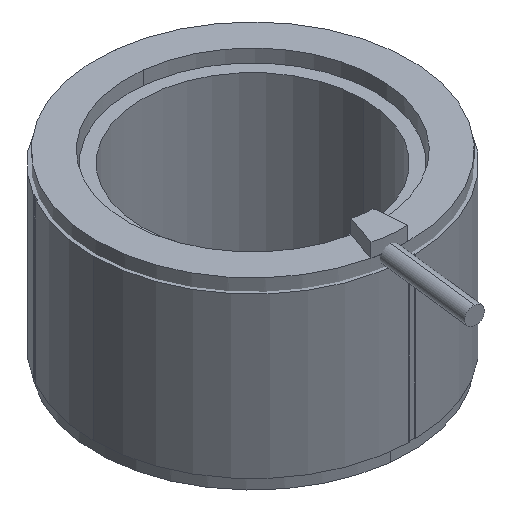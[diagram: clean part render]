
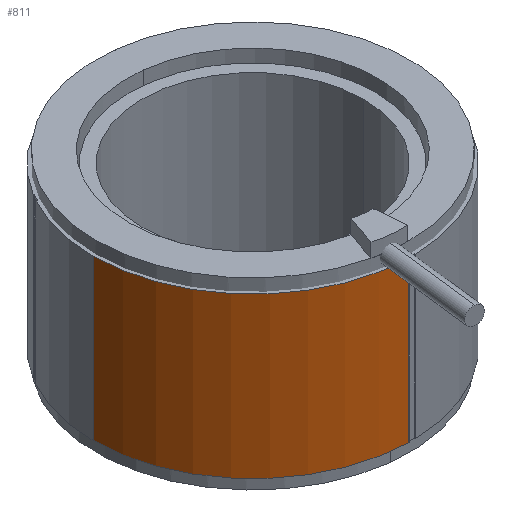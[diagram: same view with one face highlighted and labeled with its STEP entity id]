
A CAD part, isometric view. The second image highlights one B-rep face of the part: STEP entity #811.
In plain terms, the highlighted cylindrical face has radius 80 mm (diameter 160 mm), a partial arc.
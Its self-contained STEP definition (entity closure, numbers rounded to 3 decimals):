
#70 = CARTESIAN_POINT ( 'NONE',  ( 65.094, 55.582, 430.615 ) ) ;
#86 = EDGE_LOOP ( 'NONE', ( #2396, #334, #1916, #3915 ) ) ;
#145 = CIRCLE ( 'NONE', #4596, 80. ) ;
#189 = CARTESIAN_POINT ( 'NONE',  ( 66.619, 135.567, 230.615 ) ) ;
#313 = CARTESIAN_POINT ( 'NONE',  ( 65.094, 55.582, 230.615 ) ) ;
#334 = ORIENTED_EDGE ( 'NONE', *, *, #3959, .F. ) ;
#485 = CARTESIAN_POINT ( 'NONE',  ( -13.381, 135.567, 150.615 ) ) ;
#811 = ADVANCED_FACE ( 'NONE', ( #961 ), #2172, .T. ) ;
#961 = FACE_OUTER_BOUND ( 'NONE', #86, .T. ) ;
#1027 = LINE ( 'NONE', #2564, #1053 ) ;
#1053 = VECTOR ( 'NONE', #4913, 1000. ) ;
#1198 = CARTESIAN_POINT ( 'NONE',  ( 65.094, 55.582, 150.615 ) ) ;
#1330 = AXIS2_PLACEMENT_3D ( 'NONE', #189, #2464, #3352 ) ;
#1394 = VERTEX_POINT ( 'NONE', #485 ) ;
#1427 = VECTOR ( 'NONE', #3235, 1000. ) ;
#1579 = DIRECTION ( 'NONE',  ( 0., 0., -1. ) ) ;
#1916 = ORIENTED_EDGE ( 'NONE', *, *, #2223, .F. ) ;
#2032 = EDGE_CURVE ( 'NONE', #2917, #2723, #4462, .T. ) ;
#2172 = CYLINDRICAL_SURFACE ( 'NONE', #4911, 80. ) ;
#2223 = EDGE_CURVE ( 'NONE', #2917, #4916, #3996, .T. ) ;
#2224 = DIRECTION ( 'NONE',  ( -1., 0., 0. ) ) ;
#2322 = CARTESIAN_POINT ( 'NONE',  ( 66.619, 135.567, 150.615 ) ) ;
#2396 = ORIENTED_EDGE ( 'NONE', *, *, #5034, .F. ) ;
#2464 = DIRECTION ( 'NONE',  ( 0., 0., -1. ) ) ;
#2564 = CARTESIAN_POINT ( 'NONE',  ( -13.381, 135.567, 230.615 ) ) ;
#2723 = VERTEX_POINT ( 'NONE', #3465 ) ;
#2917 = VERTEX_POINT ( 'NONE', #313 ) ;
#3235 = DIRECTION ( 'NONE',  ( 0., 0., -1. ) ) ;
#3352 = DIRECTION ( 'NONE',  ( 1., 0., 0. ) ) ;
#3465 = CARTESIAN_POINT ( 'NONE',  ( -13.381, 135.567, 230.615 ) ) ;
#3759 = DIRECTION ( 'NONE',  ( 0., 0., 1. ) ) ;
#3847 = DIRECTION ( 'NONE',  ( 1., 0., 0. ) ) ;
#3915 = ORIENTED_EDGE ( 'NONE', *, *, #2032, .T. ) ;
#3959 = EDGE_CURVE ( 'NONE', #4916, #1394, #145, .T. ) ;
#3996 = LINE ( 'NONE', #70, #1427 ) ;
#4462 = CIRCLE ( 'NONE', #1330, 80. ) ;
#4524 = CARTESIAN_POINT ( 'NONE',  ( 66.619, 135.567, 230.615 ) ) ;
#4596 = AXIS2_PLACEMENT_3D ( 'NONE', #2322, #1579, #3847 ) ;
#4911 = AXIS2_PLACEMENT_3D ( 'NONE', #4524, #3759, #2224 ) ;
#4913 = DIRECTION ( 'NONE',  ( 0., 0., 1. ) ) ;
#4916 = VERTEX_POINT ( 'NONE', #1198 ) ;
#5034 = EDGE_CURVE ( 'NONE', #1394, #2723, #1027, .T. ) ;
